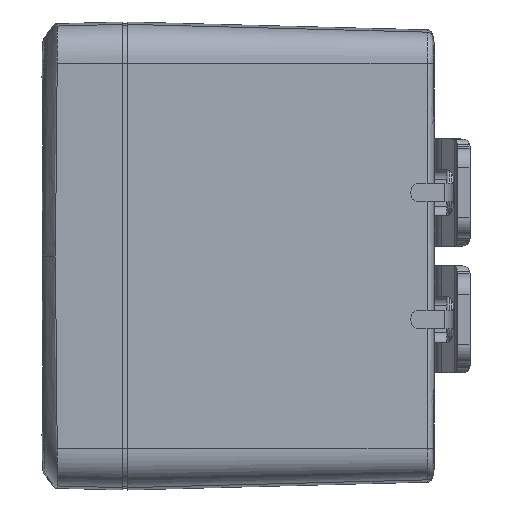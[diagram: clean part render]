
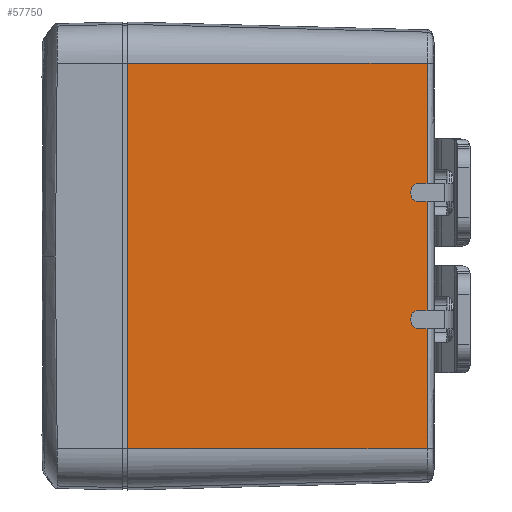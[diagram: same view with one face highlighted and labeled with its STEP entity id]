
A CAD part, left-side view. The second image highlights one B-rep face of the part: STEP entity #57750.
In plain terms, the highlighted planar face has unit normal (-1, -0.026, 0).
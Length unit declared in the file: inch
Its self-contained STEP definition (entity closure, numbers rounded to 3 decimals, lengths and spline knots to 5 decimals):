
#9391 = VERTEX_POINT ( 'NONE', #92404 ) ;
#10005 = DIRECTION ( 'NONE',  ( 0.026, -1., 0. ) ) ;
#10596 = DIRECTION ( 'NONE',  ( 0.026, -1., 0. ) ) ;
#12203 = AXIS2_PLACEMENT_3D ( 'NONE', #27456, #97421, #10596 ) ;
#18352 = CARTESIAN_POINT ( 'NONE',  ( -2.07477, 0.04673, 0.41165 ) ) ;
#20909 = VERTEX_POINT ( 'NONE', #24824 ) ;
#24824 = CARTESIAN_POINT ( 'NONE',  ( -2.07477, 0.04671, -1.23495 ) ) ;
#27456 = CARTESIAN_POINT ( 'NONE',  ( -2.125, 1.965, -1.23495 ) ) ;
#28701 = ORIENTED_EDGE ( 'NONE', *, *, #58660, .F. ) ;
#28707 = EDGE_LOOP ( 'NONE', ( #76245, #34815, #39109, #28701 ) ) ;
#31049 = CARTESIAN_POINT ( 'NONE',  ( -2.125, 1.965, 1.23495 ) ) ;
#34815 = ORIENTED_EDGE ( 'NONE', *, *, #47584, .T. ) ;
#37417 = CARTESIAN_POINT ( 'NONE',  ( -2.125, 1.965, -1.23495 ) ) ;
#39109 = ORIENTED_EDGE ( 'NONE', *, *, #46765, .F. ) ;
#40534 = LINE ( 'NONE', #31049, #110583 ) ;
#43187 = EDGE_CURVE ( 'NONE', #9391, #20909, #103040, .T. ) ;
#46765 = EDGE_CURVE ( 'NONE', #57001, #50670, #40534, .T. ) ;
#47584 = EDGE_CURVE ( 'NONE', #20909, #50670, #99118, .T. ) ;
#50670 = VERTEX_POINT ( 'NONE', #85806 ) ;
#53614 = CARTESIAN_POINT ( 'NONE',  ( -2.07477, 0.04673, 1.23495 ) ) ;
#57001 = VERTEX_POINT ( 'NONE', #105011 ) ;
#57750 = ADVANCED_FACE ( 'Face2', ( #79519 ), #106424, .T. ) ;
#58660 = EDGE_CURVE ( 'NONE', #9391, #57001, #62643, .T. ) ;
#62081 = DIRECTION ( 'NONE',  ( 0., 0., 1. ) ) ;
#62643 = LINE ( 'NONE', #37417, #66036 ) ;
#63601 = VECTOR ( 'NONE', #10005, 39.37008 ) ;
#66036 = VECTOR ( 'NONE', #62081, 39.37008 ) ;
#76245 = ORIENTED_EDGE ( 'NONE', *, *, #43187, .T. ) ;
#79519 = FACE_OUTER_BOUND ( 'NONE', #28707, .T. ) ;
#83072 = DIRECTION ( 'NONE',  ( 0.026, -1., 0. ) ) ;
#85806 = CARTESIAN_POINT ( 'NONE',  ( -2.07477, 0.04673, 1.23495 ) ) ;
#92404 = CARTESIAN_POINT ( 'NONE',  ( -2.125, 1.965, -1.23495 ) ) ;
#96146 = CARTESIAN_POINT ( 'NONE',  ( -2.07477, 0.04671, -1.23495 ) ) ;
#97421 = DIRECTION ( 'NONE',  ( -1., -0.026, 0. ) ) ;
#99118 = B_SPLINE_CURVE_WITH_KNOTS ( 'NONE', 3,
 ( #96146, #103476, #18352, #53614 ),
 .UNSPECIFIED., .F., .F.,
 ( 4, 4 ),
 ( 0., 1. ),
 .UNSPECIFIED. ) ;
#103040 = LINE ( 'NONE', #103594, #63601 ) ;
#103476 = CARTESIAN_POINT ( 'NONE',  ( -2.07477, 0.04673, -0.41165 ) ) ;
#103594 = CARTESIAN_POINT ( 'NONE',  ( -2.125, 1.965, -1.23495 ) ) ;
#105011 = CARTESIAN_POINT ( 'NONE',  ( -2.125, 1.965, 1.23495 ) ) ;
#106424 = PLANE ( 'NONE',  #12203 ) ;
#110583 = VECTOR ( 'NONE', #83072, 39.37008 ) ;
